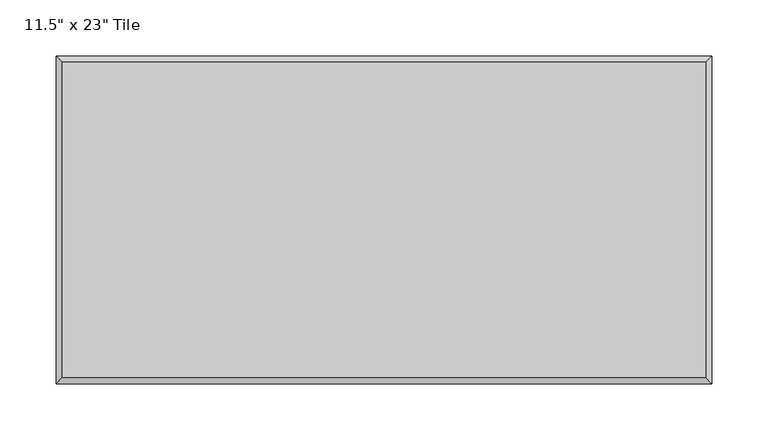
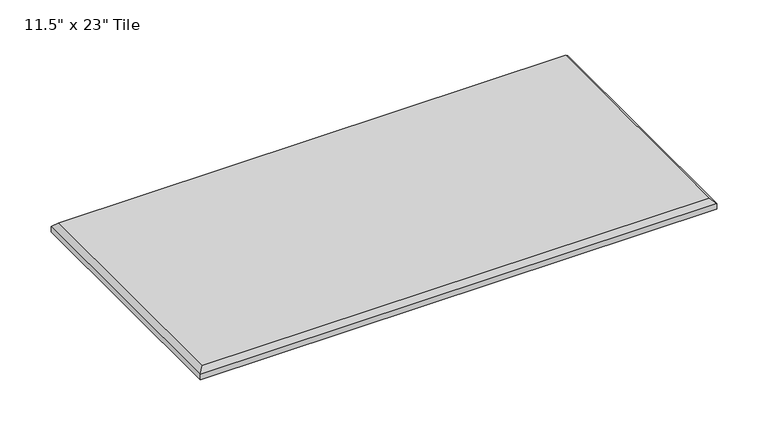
"""IFC4 building model written with IfcOpenShell, lengths in millimetres: proxy geometry."""

from ifc_helpers import new_model, si_unit, origin, place, context, project, spatial, faceted_brep, source, transform, mapped, element, save


def proxy_46f4f60e(model_context):
    return source(origin(), model_context, "Body", "Brep", [
        faceted_brep([(845.3945313, 140.5445313, 12.0054687), (272.2054688, 140.5445313, 12.0054687), (272.2054688, -140.5445312, 12.0054687), (845.3945313, -140.5445312, 12.0054687), (850.9, -146.05, 0.0), (266.7, -146.05, 0.0), (266.7, 146.05, 0.0), (850.9, 146.05, 0.0), (850.9, -146.05, 6.5), (266.7, -146.05, 6.5), (266.7, 146.05, 6.5), (850.9, 146.05, 6.5)], [[[0, 1, 2, 3]], [[4, 5, 6, 7]], [[4, 8, 9, 5]], [[5, 9, 10, 6]], [[6, 10, 11, 7]], [[7, 11, 8, 4]], [[8, 11, 0, 3]], [[3, 2, 9, 8]], [[2, 1, 10, 9]], [[11, 10, 1, 0]]]),
    ])


if __name__ == "__main__":
    model = new_model("IFC4")
    model_context = context("Model", 3, world=origin())
    ifc_project = project(units=[si_unit("LENGTHUNIT", "METRE", prefix="MILLI")], contexts=[model_context])
    site = spatial("IfcSite", under=ifc_project)
    building = spatial("IfcBuilding", under=site)
    placement = place(None, origin())
    proxy_shape = proxy_46f4f60e(model_context)
    element("IfcBuildingElementProxy", 1, Name="Wall-Panel-Kirei-EchoPanel-Echotile_Sync : 11.5\" x 23\" Tile", ObjectType="Wall-Panel-Kirei-EchoPanel-Echotile_Sync : 11.5\" x 23\" Tile", at=placement, inside=building, context=model_context, shape_type="MappedRepresentation", body=[
        mapped(proxy_shape, transform((0.0, 0.0, 0.0), x_axis=(1.0, 0.0, 0.0), y_axis=(0.0, 1.0, 0.0), z_axis=(0.0, 0.0, 1.0))),
    ])
    save(model, "model.ifc")
